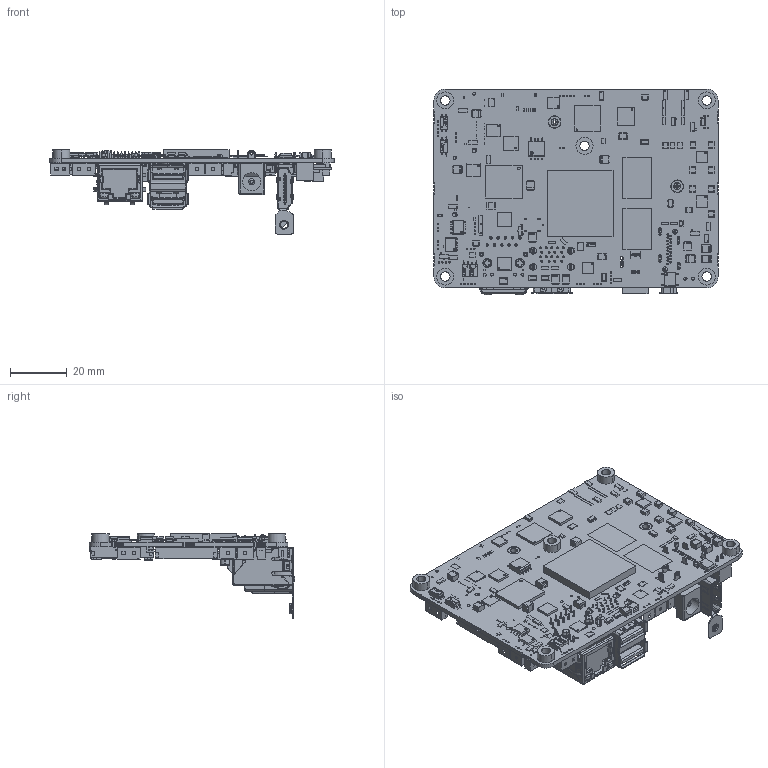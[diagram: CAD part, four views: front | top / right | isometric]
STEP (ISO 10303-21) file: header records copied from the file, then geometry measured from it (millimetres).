
FILE_DESCRIPTION((''),'2;1');
FILE_NAME('467444_002-01_LIGHT','2024-07-31T',('admin'),(''),'CREO PARAMETRIC BY PTC INC, 2014350','CREO PARAMETRIC BY PTC INC, 2014350','');
FILE_SCHEMA(('AUTOMOTIVE_DESIGN { 1 0 10303 214 1 1 1 1 }'));
Products named in the file (1): 467444_002-01_LIGHT
Bounding box: 100 x 72.44 x 29.67 mm (x, y, z)
Surface area: 29216.9 mm2 (no closed solid volume)
Topology: 0 solids, 875 shells, 2847 faces, 17129 edges, 14920 vertices
Faces by surface type: plane 2126, cylinder 620, bspline 63, sphere 14, cone 12, torus 12
Entity records: 182877 total; most frequent: CARTESIAN_POINT 45480, DIRECTION 24264, ORIENTED_EDGE 20691, EDGE_CURVE 17115, VERTEX_POINT 14923, VECTOR 12998, LINE 12998, AXIS2_PLACEMENT_3D 5633
